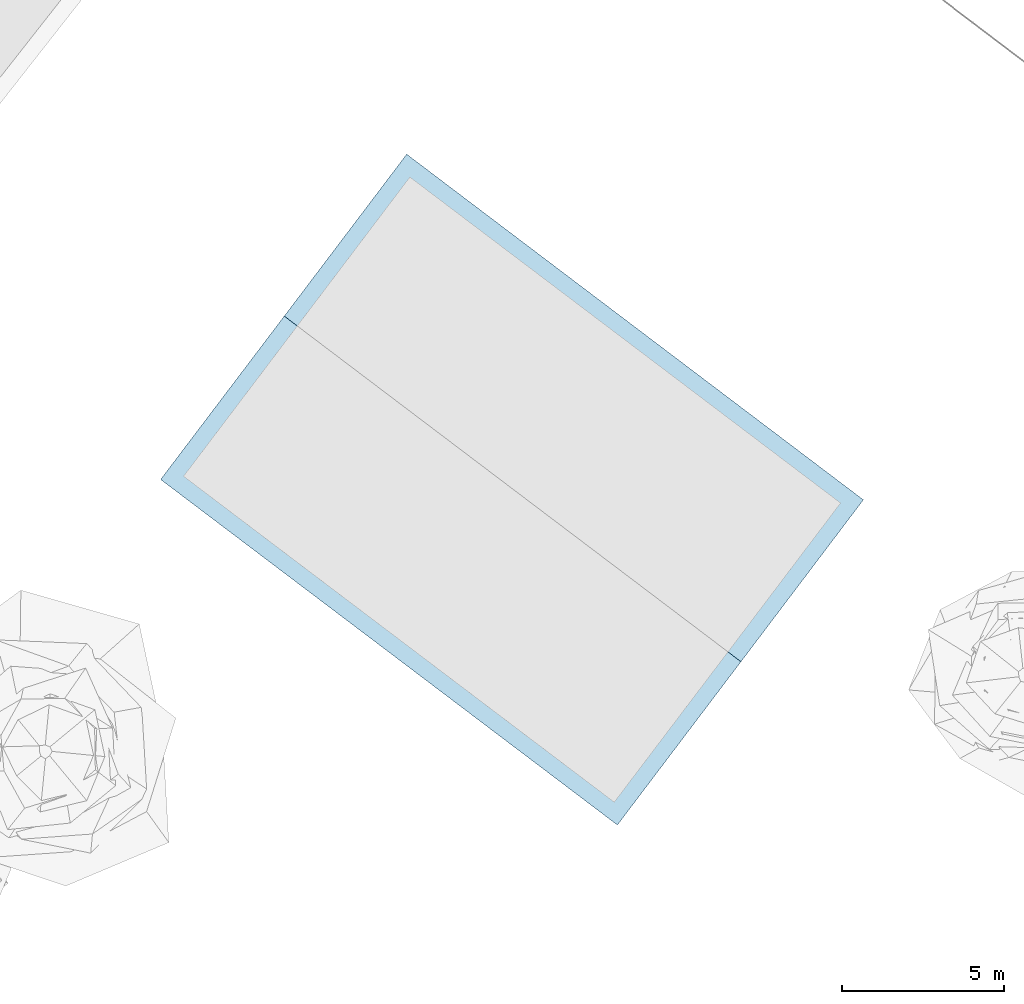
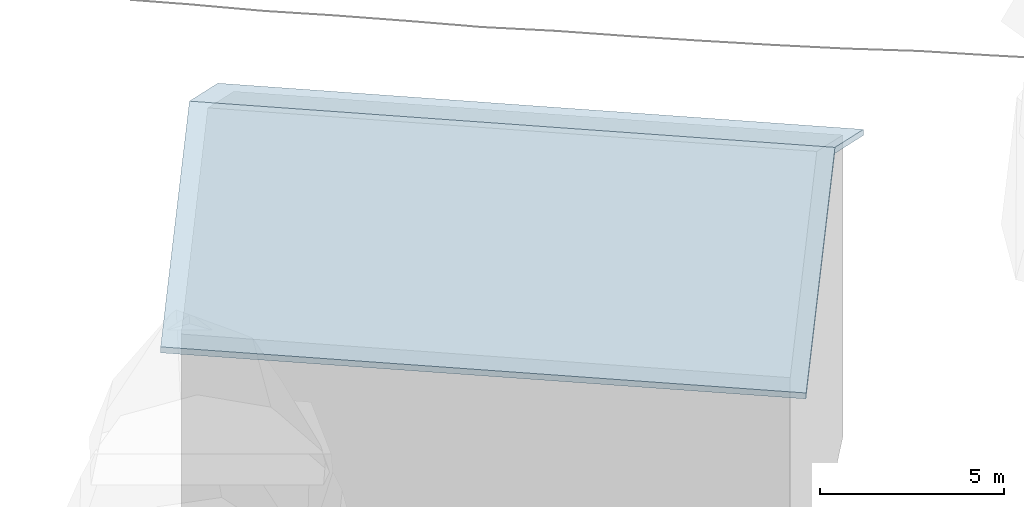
# Not in any storey, part 12 of 88: 1 roof.
"""IFC4 building model written with IfcOpenShell, lengths in metres."""

from ifc_helpers import new_model, si_unit, origin_with_axes, place, context, subcontext, project, spatial, faceted_brep, element, save


model = new_model("IFC4")

# Units and contexts
model_context = context("Model", 3, precision=1e-05, world=origin_with_axes())
body_context = subcontext(model_context, "Body", "Model", "MODEL_VIEW")
ifc_project = project(units=[si_unit("LENGTHUNIT", "METRE"), si_unit("AREAUNIT", "SQUARE_METRE"), si_unit("VOLUMEUNIT", "CUBIC_METRE"), si_unit("PLANEANGLEUNIT", "RADIAN")], contexts=[model_context])

# Sites, building
site_1_placement = place(None, origin_with_axes())
site_1 = spatial("IfcSite", under=ifc_project, at=site_1_placement, Name="CH907857693633", CompositionType="ELEMENT")
site_2_placement = place(None, origin_with_axes())
site_2 = spatial("IfcSite", under=site_1, at=site_2_placement, Name="Buildings", CompositionType="ELEMENT")
building_placement = place(None, origin_with_axes())
building = spatial("IfcBuilding", under=site_2, at=building_placement, Name="Building_5FC85BE9", CompositionType="ELEMENT")

# Roof
roof_placement = place(building_placement, origin_with_axes())
element("IfcRoof", 1, at=roof_placement, inside=building, Name="Building_5FC85BE9_Roof", PredefinedType="NOTDEFINED", context=body_context, shape_type="Brep", body=[
    faceted_brep([(139.738000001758, 138.25, 17.7467877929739), (141.629999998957, 140.752000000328, 15.8648877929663), (137.155999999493, 142.171999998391, 16.8067877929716), (135.936000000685, 133.223999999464, 17.7467877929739), (137.846000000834, 135.747999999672, 19.6265877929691), (133.361999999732, 137.155999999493, 18.6866877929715), (137.846000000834, 135.747999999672, 19.6265877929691), (135.261999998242, 139.670000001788, 18.6866877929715), (130.787999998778, 141.089999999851, 19.6265877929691), (142.320000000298, 134.329999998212, 18.6866877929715), (139.738000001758, 138.25, 17.7467877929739), (137.846000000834, 135.747999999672, 19.6265877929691), (135.261999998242, 139.670000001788, 18.6866877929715), (137.846000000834, 135.747999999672, 19.6265877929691), (139.738000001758, 138.25, 17.7467877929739), (135.936000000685, 133.223999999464, 17.7467877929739), (134.026000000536, 130.699999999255, 15.8648877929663), (138.510000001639, 129.291999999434, 16.8067877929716), (134.572000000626, 146.094000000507, 15.6668877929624), (130.787999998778, 141.089999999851, 19.426587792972), (134.572000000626, 146.094000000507, 15.8648877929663), (130.787999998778, 141.089999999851, 19.6265877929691), (134.572000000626, 146.094000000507, 15.8648877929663), (130.787999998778, 141.089999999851, 19.426587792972), (126.965999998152, 136.039999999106, 15.8648877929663), (130.787999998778, 141.089999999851, 19.426587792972), (126.96799999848, 136.039999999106, 15.6648877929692), (130.787999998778, 141.089999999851, 19.426587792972), (126.965999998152, 136.039999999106, 15.8648877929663), (130.787999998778, 141.089999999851, 19.6265877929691), (134.026000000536, 130.699999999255, 15.8648877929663), (134.026000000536, 130.699999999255, 15.7648877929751), (141.083999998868, 125.359999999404, 15.8648877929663), (134.026000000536, 130.699999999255, 15.7648877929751), (141.083999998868, 125.359999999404, 15.6668877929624), (141.083999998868, 125.359999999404, 15.8648877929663), (141.083999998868, 125.359999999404, 15.6668877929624), (134.026000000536, 130.699999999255, 15.7648877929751), (134.026000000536, 130.699999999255, 15.6668877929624), (134.026000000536, 130.699999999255, 15.7648877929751), (126.965999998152, 136.039999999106, 15.8648877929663), (126.96799999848, 136.039999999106, 15.6648877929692), (134.026000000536, 130.699999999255, 15.6668877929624), (134.026000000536, 130.699999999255, 15.7648877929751), (126.96799999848, 136.039999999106, 15.6648877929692), (126.965999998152, 136.039999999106, 15.8648877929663), (134.026000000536, 130.699999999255, 15.7648877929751), (134.026000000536, 130.699999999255, 15.8648877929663), (144.903999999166, 130.407999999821, 19.426587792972), (141.083999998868, 125.359999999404, 15.8648877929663), (141.083999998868, 125.359999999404, 15.6668877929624), (141.083999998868, 125.359999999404, 15.8648877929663), (144.903999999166, 130.407999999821, 19.426587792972), (144.903999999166, 130.407999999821, 19.6265877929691), (148.688000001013, 135.412000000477, 15.8648877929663), (144.903999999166, 130.407999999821, 19.6265877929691), (144.903999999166, 130.407999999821, 19.426587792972), (144.903999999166, 130.407999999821, 19.426587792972), (148.688000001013, 135.412000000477, 15.6668877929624), (148.688000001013, 135.412000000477, 15.8648877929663), (141.629999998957, 140.752000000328, 15.7648877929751), (148.688000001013, 135.412000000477, 15.6668877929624), (141.629999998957, 140.752000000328, 15.6668877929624), (141.629999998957, 140.752000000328, 15.7648877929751), (141.629999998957, 140.752000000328, 15.8648877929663), (148.688000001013, 135.412000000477, 15.8648877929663), (148.688000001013, 135.412000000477, 15.6668877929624), (141.629999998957, 140.752000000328, 15.7648877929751), (148.688000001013, 135.412000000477, 15.8648877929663), (141.629999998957, 140.752000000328, 15.7648877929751), (134.572000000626, 146.094000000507, 15.8648877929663), (141.629999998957, 140.752000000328, 15.8648877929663), (134.572000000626, 146.094000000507, 15.8648877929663), (141.629999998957, 140.752000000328, 15.7648877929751), (134.572000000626, 146.094000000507, 15.6668877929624), (141.629999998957, 140.752000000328, 15.7648877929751), (141.629999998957, 140.752000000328, 15.6668877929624), (134.572000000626, 146.094000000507, 15.6668877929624), (130.787999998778, 141.089999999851, 19.426587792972), (137.155999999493, 142.171999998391, 16.6067877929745), (135.261999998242, 139.670000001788, 18.4866877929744), (126.96799999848, 136.039999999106, 15.6648877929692), (133.361999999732, 137.155999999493, 18.4866877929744), (131.451999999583, 134.631999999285, 16.6068877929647), (148.688000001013, 135.412000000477, 15.6668877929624), (142.320000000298, 134.329999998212, 18.4866877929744), (144.21400000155, 136.83199999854, 16.6067877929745), (144.903999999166, 130.407999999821, 19.426587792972), (138.510000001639, 129.291999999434, 16.6067877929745), (140.420000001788, 131.815999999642, 18.4866877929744), (130.787999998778, 141.089999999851, 19.6265877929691), (126.965999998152, 136.039999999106, 15.8648877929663), (133.361999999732, 137.155999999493, 18.6866877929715), (141.083999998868, 125.359999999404, 15.8648877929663), (144.903999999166, 130.407999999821, 19.6265877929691), (138.510000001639, 129.291999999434, 16.8067877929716), (137.846000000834, 135.747999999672, 19.426587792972), (140.420000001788, 131.815999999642, 18.4866877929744), (135.936000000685, 133.223999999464, 17.5467877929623), (138.510000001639, 129.291999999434, 16.6067877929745), (135.936000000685, 133.223999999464, 17.5467877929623), (140.420000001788, 131.815999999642, 18.4866877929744), (134.026000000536, 130.699999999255, 15.6668877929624), (131.451999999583, 134.631999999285, 16.6068877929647), (135.936000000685, 133.223999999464, 17.5467877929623), (135.936000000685, 133.223999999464, 17.5467877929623), (138.510000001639, 129.291999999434, 16.6067877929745), (134.026000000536, 130.699999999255, 15.6668877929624), (134.572000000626, 146.094000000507, 15.8648877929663), (130.787999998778, 141.089999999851, 19.6265877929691), (137.155999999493, 142.171999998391, 16.8067877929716), (144.903999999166, 130.407999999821, 19.6265877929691), (148.688000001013, 135.412000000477, 15.8648877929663), (142.320000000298, 134.329999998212, 18.6866877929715), (139.738000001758, 138.25, 17.5467877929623), (137.155999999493, 142.171999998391, 16.6067877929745), (141.629999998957, 140.752000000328, 15.6668877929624), (141.629999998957, 140.752000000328, 15.6668877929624), (144.21400000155, 136.83199999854, 16.6067877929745), (139.738000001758, 138.25, 17.5467877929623), (139.738000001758, 138.25, 17.5467877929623), (137.846000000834, 135.747999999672, 19.426587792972), (135.261999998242, 139.670000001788, 18.4866877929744), (148.688000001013, 135.412000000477, 15.8648877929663), (141.629999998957, 140.752000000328, 15.8648877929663), (144.21400000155, 136.83199999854, 16.8067877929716), (144.903999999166, 130.407999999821, 19.6265877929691), (137.846000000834, 135.747999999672, 19.6265877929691), (140.420000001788, 131.815999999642, 18.6866877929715), (134.572000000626, 146.094000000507, 15.6668877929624), (141.629999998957, 140.752000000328, 15.6668877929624), (137.155999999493, 142.171999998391, 16.6067877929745), (130.787999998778, 141.089999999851, 19.426587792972), (137.846000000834, 135.747999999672, 19.426587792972), (133.361999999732, 137.155999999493, 18.4866877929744), (144.903999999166, 130.407999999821, 19.426587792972), (137.846000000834, 135.747999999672, 19.426587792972), (142.320000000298, 134.329999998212, 18.4866877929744), (126.965999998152, 136.039999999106, 15.8648877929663), (134.026000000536, 130.699999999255, 15.8648877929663), (131.451999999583, 134.631999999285, 16.8067877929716), (141.083999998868, 125.359999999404, 15.6668877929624), (134.026000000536, 130.699999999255, 15.6668877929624), (138.510000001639, 129.291999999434, 16.6067877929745), (137.846000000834, 135.747999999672, 19.6265877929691), (130.787999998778, 141.089999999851, 19.6265877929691), (133.361999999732, 137.155999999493, 18.6866877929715), (135.936000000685, 133.223999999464, 17.7467877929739), (133.361999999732, 137.155999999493, 18.6866877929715), (131.451999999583, 134.631999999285, 16.8067877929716), (134.026000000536, 130.699999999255, 15.8648877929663), (141.083999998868, 125.359999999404, 15.8648877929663), (138.510000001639, 129.291999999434, 16.8067877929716), (135.936000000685, 133.223999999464, 17.7467877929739), (138.510000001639, 129.291999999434, 16.8067877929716), (140.420000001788, 131.815999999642, 18.6866877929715), (140.420000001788, 131.815999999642, 18.6866877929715), (137.846000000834, 135.747999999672, 19.6265877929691), (135.936000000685, 133.223999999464, 17.7467877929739), (126.96799999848, 136.039999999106, 15.6648877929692), (130.787999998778, 141.089999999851, 19.426587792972), (133.361999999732, 137.155999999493, 18.4866877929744), (137.846000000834, 135.747999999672, 19.426587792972), (135.936000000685, 133.223999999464, 17.5467877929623), (133.361999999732, 137.155999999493, 18.4866877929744), (144.903999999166, 130.407999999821, 19.426587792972), (141.083999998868, 125.359999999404, 15.6668877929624), (138.510000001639, 129.291999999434, 16.6067877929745), (137.846000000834, 135.747999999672, 19.426587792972), (144.903999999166, 130.407999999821, 19.426587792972), (140.420000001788, 131.815999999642, 18.4866877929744), (133.361999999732, 137.155999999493, 18.6866877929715), (126.965999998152, 136.039999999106, 15.8648877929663), (131.451999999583, 134.631999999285, 16.8067877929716), (134.026000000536, 130.699999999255, 15.8648877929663), (135.936000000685, 133.223999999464, 17.7467877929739), (131.451999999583, 134.631999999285, 16.8067877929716), (138.510000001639, 129.291999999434, 16.8067877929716), (144.903999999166, 130.407999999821, 19.6265877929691), (140.420000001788, 131.815999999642, 18.6866877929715), (133.361999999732, 137.155999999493, 18.4866877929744), (135.936000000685, 133.223999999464, 17.5467877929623), (131.451999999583, 134.631999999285, 16.6068877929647), (134.026000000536, 130.699999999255, 15.6668877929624), (126.96799999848, 136.039999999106, 15.6648877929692), (131.451999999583, 134.631999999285, 16.6068877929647), (141.629999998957, 140.752000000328, 15.8648877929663), (134.572000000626, 146.094000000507, 15.8648877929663), (137.155999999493, 142.171999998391, 16.8067877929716), (130.787999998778, 141.089999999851, 19.6265877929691), (135.261999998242, 139.670000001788, 18.6866877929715), (137.155999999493, 142.171999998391, 16.8067877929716), (139.738000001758, 138.25, 17.7467877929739), (137.155999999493, 142.171999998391, 16.8067877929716), (135.261999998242, 139.670000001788, 18.6866877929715), (137.846000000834, 135.747999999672, 19.6265877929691), (144.903999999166, 130.407999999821, 19.6265877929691), (142.320000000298, 134.329999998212, 18.6866877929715), (139.738000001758, 138.25, 17.7467877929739), (142.320000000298, 134.329999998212, 18.6866877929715), (144.21400000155, 136.83199999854, 16.8067877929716), (130.787999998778, 141.089999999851, 19.426587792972), (134.572000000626, 146.094000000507, 15.6668877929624), (137.155999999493, 142.171999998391, 16.6067877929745), (148.688000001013, 135.412000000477, 15.6668877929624), (144.903999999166, 130.407999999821, 19.426587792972), (142.320000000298, 134.329999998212, 18.4866877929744), (137.846000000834, 135.747999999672, 19.426587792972), (139.738000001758, 138.25, 17.5467877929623), (142.320000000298, 134.329999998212, 18.4866877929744), (141.629999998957, 140.752000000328, 15.6668877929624), (148.688000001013, 135.412000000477, 15.6668877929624), (144.21400000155, 136.83199999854, 16.6067877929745), (142.320000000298, 134.329999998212, 18.4866877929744), (139.738000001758, 138.25, 17.5467877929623), (144.21400000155, 136.83199999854, 16.6067877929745), (141.629999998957, 140.752000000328, 15.8648877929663), (139.738000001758, 138.25, 17.7467877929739), (144.21400000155, 136.83199999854, 16.8067877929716), (142.320000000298, 134.329999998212, 18.6866877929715), (148.688000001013, 135.412000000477, 15.8648877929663), (144.21400000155, 136.83199999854, 16.8067877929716), (137.155999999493, 142.171999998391, 16.6067877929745), (139.738000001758, 138.25, 17.5467877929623), (135.261999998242, 139.670000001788, 18.4866877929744), (137.846000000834, 135.747999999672, 19.426587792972), (130.787999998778, 141.089999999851, 19.426587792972), (135.261999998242, 139.670000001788, 18.4866877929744)], [[[0, 1, 2]], [[3, 4, 5]], [[6, 7, 8]], [[9, 10, 11]], [[12, 13, 14]], [[15, 16, 17]], [[18, 19, 20]], [[21, 22, 23]], [[24, 25, 26]], [[27, 28, 29]], [[30, 31, 32]], [[33, 34, 35]], [[36, 37, 38]], [[39, 40, 41]], [[42, 43, 44]], [[45, 46, 47]], [[48, 49, 50]], [[51, 52, 53]], [[54, 55, 56]], [[57, 58, 59]], [[60, 61, 62]], [[63, 64, 65]], [[66, 67, 68]], [[69, 70, 71]], [[72, 73, 74]], [[75, 76, 77]], [[78, 79, 80]], [[81, 82, 83]], [[84, 85, 86]], [[87, 88, 89]], [[90, 91, 92]], [[93, 94, 95]], [[96, 97, 98]], [[99, 100, 101]], [[102, 103, 104]], [[105, 106, 107]], [[108, 109, 110]], [[111, 112, 113]], [[114, 115, 116]], [[117, 118, 119]], [[120, 121, 122]], [[123, 124, 125]], [[126, 127, 128]], [[129, 130, 131]], [[132, 133, 134]], [[135, 136, 137]], [[138, 139, 140]], [[141, 142, 143]], [[144, 145, 146]], [[147, 148, 149]], [[150, 151, 152]], [[153, 154, 155]], [[156, 157, 158]], [[159, 160, 161]], [[162, 163, 164]], [[165, 166, 167]], [[168, 169, 170]], [[171, 172, 173]], [[174, 175, 176]], [[177, 178, 179]], [[180, 181, 182]], [[183, 184, 185]], [[186, 187, 188]], [[189, 190, 191]], [[192, 193, 194]], [[195, 196, 197]], [[198, 199, 200]], [[201, 202, 203]], [[204, 205, 206]], [[207, 208, 209]], [[210, 211, 212]], [[213, 214, 215]], [[216, 217, 218]], [[219, 220, 221]], [[222, 223, 224]], [[225, 226, 227]]]),
])

save(model, "model.ifc")
